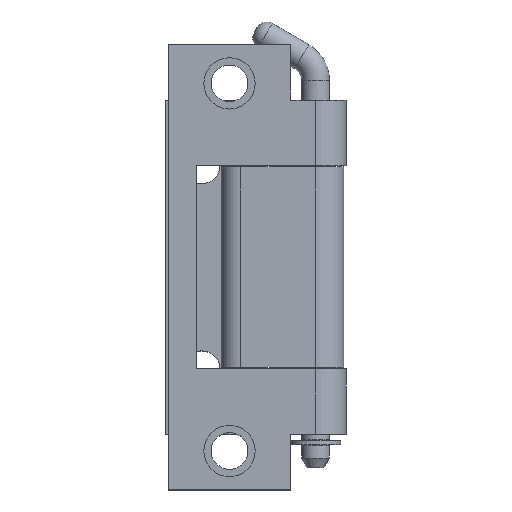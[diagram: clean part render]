
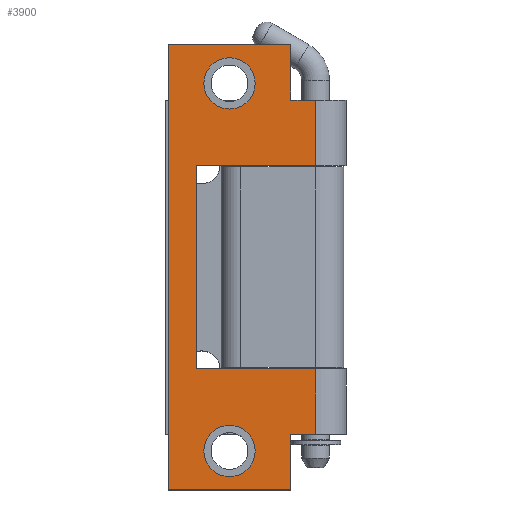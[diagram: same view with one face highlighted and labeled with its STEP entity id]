
A CAD part, top view. The second image highlights one B-rep face of the part: STEP entity #3900.
In plain terms, the highlighted planar face has unit normal (0, 0, 1).
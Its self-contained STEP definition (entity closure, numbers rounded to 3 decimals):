
#1731 = CARTESIAN_POINT ( 'NONE',  ( 80., 22., 3. ) ) ;
#2030 = CARTESIAN_POINT ( 'NONE',  ( 0., 0., 3. ) ) ;
#2063 = DIRECTION ( 'NONE',  ( 0., -1., 0. ) ) ;
#2064 = VECTOR ( 'NONE', #2063, 1000. ) ;
#2065 = CARTESIAN_POINT ( 'NONE',  ( 0., 26.45, 3. ) ) ;
#2070 = LINE ( 'NONE', #2065, #2064 ) ;
#2071 = CARTESIAN_POINT ( 'NONE',  ( 0., 22., 3. ) ) ;
#2124 = CARTESIAN_POINT ( 'NONE',  ( 70., 22., 3. ) ) ;
#2219 = CARTESIAN_POINT ( 'NONE',  ( 10., 22., 3. ) ) ;
#2228 = CARTESIAN_POINT ( 'NONE',  ( 80., 0., 3. ) ) ;
#2255 = DIRECTION ( 'NONE',  ( -1., 0., 0. ) ) ;
#2256 = DIRECTION ( 'NONE',  ( 0., 0., 1. ) ) ;
#2257 = AXIS2_PLACEMENT_3D ( 'NONE', #2270, #2256, #2255 ) ;
#2262 = CIRCLE ( 'NONE', #2257, 4.6 ) ;
#2270 = CARTESIAN_POINT ( 'NONE',  ( 7., 11., 3. ) ) ;
#2303 = DIRECTION ( 'NONE',  ( -1., 0., 0. ) ) ;
#2304 = VECTOR ( 'NONE', #2303, 1000. ) ;
#2305 = CARTESIAN_POINT ( 'NONE',  ( 10., 22., 3. ) ) ;
#2306 = LINE ( 'NONE', #2305, #2304 ) ;
#2307 = DIRECTION ( 'NONE',  ( 0., 1., 0. ) ) ;
#2308 = VECTOR ( 'NONE', #2307, 1000. ) ;
#2309 = CARTESIAN_POINT ( 'NONE',  ( 80., 0., 3. ) ) ;
#2310 = DIRECTION ( 'NONE',  ( 1., 0., 0. ) ) ;
#2311 = DIRECTION ( 'NONE',  ( 0., 0., 1. ) ) ;
#2312 = CARTESIAN_POINT ( 'NONE',  ( 0., 0., 3. ) ) ;
#2313 = LINE ( 'NONE', #2360, #2359 ) ;
#2314 = CARTESIAN_POINT ( 'NONE',  ( 58.25, 5., 3. ) ) ;
#2315 = CARTESIAN_POINT ( 'NONE',  ( 21.75, 26.45, 3. ) ) ;
#2318 = AXIS2_PLACEMENT_3D ( 'NONE', #2312, #2311, #2310 ) ;
#2319 = PLANE ( 'NONE',  #2318 ) ;
#2320 = FACE_BOUND ( 'NONE', #3902, .T. ) ;
#2324 = FACE_OUTER_BOUND ( 'NONE', #3889, .T. ) ;
#2325 = FACE_BOUND ( 'NONE', #3859, .T. ) ;
#2326 = LINE ( 'NONE', #2309, #2308 ) ;
#2330 = CARTESIAN_POINT ( 'NONE',  ( 58.25, 26.45, 3. ) ) ;
#2333 = LINE ( 'NONE', #2393, #2392 ) ;
#2334 = VECTOR ( 'NONE', #2385, 1000. ) ;
#2335 = DIRECTION ( 'NONE',  ( 1., 0., 0. ) ) ;
#2336 = DIRECTION ( 'NONE',  ( 0., 0., 1. ) ) ;
#2337 = CIRCLE ( 'NONE', #2341, 4.6 ) ;
#2339 = DIRECTION ( 'NONE',  ( 0., -1., 0. ) ) ;
#2340 = VECTOR ( 'NONE', #2339, 1000. ) ;
#2341 = AXIS2_PLACEMENT_3D ( 'NONE', #2348, #2336, #2335 ) ;
#2342 = CARTESIAN_POINT ( 'NONE',  ( 58.25, 65., 3. ) ) ;
#2343 = LINE ( 'NONE', #2342, #2340 ) ;
#2344 = CARTESIAN_POINT ( 'NONE',  ( 80., 26.45, 3. ) ) ;
#2345 = LINE ( 'NONE', #2344, #2334 ) ;
#2346 = DIRECTION ( 'NONE',  ( -1., 0., 0. ) ) ;
#2347 = VECTOR ( 'NONE', #2346, 1000. ) ;
#2348 = CARTESIAN_POINT ( 'NONE',  ( 73., 11., 3. ) ) ;
#2349 = CARTESIAN_POINT ( 'NONE',  ( 21.75, 5., 3. ) ) ;
#2353 = CARTESIAN_POINT ( 'NONE',  ( 10., 26.45, 3. ) ) ;
#2356 = CARTESIAN_POINT ( 'NONE',  ( 58.25, 5., 3. ) ) ;
#2357 = LINE ( 'NONE', #2356, #2347 ) ;
#2358 = DIRECTION ( 'NONE',  ( 0., 1., 0. ) ) ;
#2359 = VECTOR ( 'NONE', #2358, 1000. ) ;
#2360 = CARTESIAN_POINT ( 'NONE',  ( 21.75, 65., 3. ) ) ;
#2362 = CARTESIAN_POINT ( 'NONE',  ( 70., 26.45, 3. ) ) ;
#2365 = DIRECTION ( 'NONE',  ( 0., 1., 0. ) ) ;
#2366 = VECTOR ( 'NONE', #2365, 1000. ) ;
#2367 = CARTESIAN_POINT ( 'NONE',  ( 70., 69.712, 3. ) ) ;
#2368 = LINE ( 'NONE', #2367, #2366 ) ;
#2369 = DIRECTION ( 'NONE',  ( -1., 0., 0. ) ) ;
#2370 = VECTOR ( 'NONE', #2369, 1000. ) ;
#2371 = CARTESIAN_POINT ( 'NONE',  ( 80., 26.45, 3. ) ) ;
#2372 = LINE ( 'NONE', #2371, #2370 ) ;
#2385 = DIRECTION ( 'NONE',  ( -1., 0., 0. ) ) ;
#2387 = DIRECTION ( 'NONE',  ( 0., -1., 0. ) ) ;
#2388 = VECTOR ( 'NONE', #2387, 1000. ) ;
#2389 = CARTESIAN_POINT ( 'NONE',  ( 10., 69.712, 3. ) ) ;
#2390 = LINE ( 'NONE', #2389, #2388 ) ;
#2391 = DIRECTION ( 'NONE',  ( -1., 0., 0. ) ) ;
#2392 = VECTOR ( 'NONE', #2391, 1000. ) ;
#2393 = CARTESIAN_POINT ( 'NONE',  ( 70., 22., 3. ) ) ;
#2568 = DIRECTION ( 'NONE',  ( 1., 0., 0. ) ) ;
#2569 = VECTOR ( 'NONE', #2568, 1000. ) ;
#2570 = CARTESIAN_POINT ( 'NONE',  ( 0., 0., 3. ) ) ;
#2571 = LINE ( 'NONE', #2570, #2569 ) ;
#2735 = CARTESIAN_POINT ( 'NONE',  ( 2.4, 11., 3. ) ) ;
#2891 = CARTESIAN_POINT ( 'NONE',  ( 11.6, 11., 3. ) ) ;
#2963 = CIRCLE ( 'NONE', #3000, 4.6 ) ;
#2989 = DIRECTION ( 'NONE',  ( -1., 0., 0. ) ) ;
#2990 = DIRECTION ( 'NONE',  ( 0., 0., 1. ) ) ;
#2999 = CARTESIAN_POINT ( 'NONE',  ( 7., 11., 3. ) ) ;
#3000 = AXIS2_PLACEMENT_3D ( 'NONE', #2999, #2990, #2989 ) ;
#3022 = CARTESIAN_POINT ( 'NONE',  ( 77.6, 11., 3. ) ) ;
#3023 = CARTESIAN_POINT ( 'NONE',  ( 68.4, 11., 3. ) ) ;
#3024 = DIRECTION ( 'NONE',  ( 1., 0., 0. ) ) ;
#3025 = DIRECTION ( 'NONE',  ( 0., 0., 1. ) ) ;
#3032 = CARTESIAN_POINT ( 'NONE',  ( 73., 11., 3. ) ) ;
#3033 = CIRCLE ( 'NONE', #3038, 4.6 ) ;
#3038 = AXIS2_PLACEMENT_3D ( 'NONE', #3032, #3025, #3024 ) ;
#3673 = VERTEX_POINT ( 'NONE', #1731 ) ;
#3756 = VERTEX_POINT ( 'NONE', #2030 ) ;
#3763 = VERTEX_POINT ( 'NONE', #2071 ) ;
#3768 = EDGE_CURVE ( 'NONE', #3763, #3756, #2070, .T. ) ;
#3795 = ORIENTED_EDGE ( 'NONE', *, *, #4291, .F. ) ;
#3851 = VERTEX_POINT ( 'NONE', #2228 ) ;
#3859 = EDGE_LOOP ( 'NONE', ( #3896, #3795 ) ) ;
#3864 = VERTEX_POINT ( 'NONE', #2219 ) ;
#3865 = EDGE_CURVE ( 'NONE', #4256, #4158, #2262, .T. ) ;
#3888 = ORIENTED_EDGE ( 'NONE', *, *, #3927, .T. ) ;
#3889 = EDGE_LOOP ( 'NONE', ( #3910, #3909, #3898, #3888, #3923, #3916, #3921, #3919, #3941, #3926, #3917, #3934 ) ) ;
#3890 = ORIENTED_EDGE ( 'NONE', *, *, #4283, .F. ) ;
#3894 = VERTEX_POINT ( 'NONE', #2330 ) ;
#3895 = ORIENTED_EDGE ( 'NONE', *, *, #3865, .F. ) ;
#3896 = ORIENTED_EDGE ( 'NONE', *, *, #3918, .F. ) ;
#3898 = ORIENTED_EDGE ( 'NONE', *, *, #3905, .T. ) ;
#3900 = ADVANCED_FACE ( 'NONE', ( #2320, #2325, #2324 ), #2319, .T. ) ;
#3902 = EDGE_LOOP ( 'NONE', ( #3895, #3890 ) ) ;
#3903 = EDGE_CURVE ( 'NONE', #3851, #3673, #2326, .T. ) ;
#3904 = EDGE_CURVE ( 'NONE', #3864, #3763, #2306, .T. ) ;
#3905 = EDGE_CURVE ( 'NONE', #3913, #3908, #2313, .T. ) ;
#3906 = VERTEX_POINT ( 'NONE', #2362 ) ;
#3908 = VERTEX_POINT ( 'NONE', #2315 ) ;
#3909 = ORIENTED_EDGE ( 'NONE', *, *, #3911, .T. ) ;
#3910 = ORIENTED_EDGE ( 'NONE', *, *, #3915, .T. ) ;
#3911 = EDGE_CURVE ( 'NONE', #3912, #3913, #2357, .T. ) ;
#3912 = VERTEX_POINT ( 'NONE', #2314 ) ;
#3913 = VERTEX_POINT ( 'NONE', #2349 ) ;
#3914 = VERTEX_POINT ( 'NONE', #2353 ) ;
#3915 = EDGE_CURVE ( 'NONE', #3894, #3912, #2343, .T. ) ;
#3916 = ORIENTED_EDGE ( 'NONE', *, *, #3904, .T. ) ;
#3917 = ORIENTED_EDGE ( 'NONE', *, *, #3942, .T. ) ;
#3918 = EDGE_CURVE ( 'NONE', #4302, #4295, #2337, .T. ) ;
#3919 = ORIENTED_EDGE ( 'NONE', *, *, #4014, .T. ) ;
#3920 = EDGE_CURVE ( 'NONE', #3673, #3943, #2333, .T. ) ;
#3921 = ORIENTED_EDGE ( 'NONE', *, *, #3768, .T. ) ;
#3922 = EDGE_CURVE ( 'NONE', #3914, #3864, #2390, .T. ) ;
#3923 = ORIENTED_EDGE ( 'NONE', *, *, #3922, .T. ) ;
#3926 = ORIENTED_EDGE ( 'NONE', *, *, #3920, .T. ) ;
#3927 = EDGE_CURVE ( 'NONE', #3908, #3914, #2345, .T. ) ;
#3934 = ORIENTED_EDGE ( 'NONE', *, *, #3939, .T. ) ;
#3939 = EDGE_CURVE ( 'NONE', #3906, #3894, #2372, .T. ) ;
#3941 = ORIENTED_EDGE ( 'NONE', *, *, #3903, .T. ) ;
#3942 = EDGE_CURVE ( 'NONE', #3943, #3906, #2368, .T. ) ;
#3943 = VERTEX_POINT ( 'NONE', #2124 ) ;
#4014 = EDGE_CURVE ( 'NONE', #3756, #3851, #2571, .T. ) ;
#4158 = VERTEX_POINT ( 'NONE', #2735 ) ;
#4256 = VERTEX_POINT ( 'NONE', #2891 ) ;
#4283 = EDGE_CURVE ( 'NONE', #4158, #4256, #2963, .T. ) ;
#4291 = EDGE_CURVE ( 'NONE', #4295, #4302, #3033, .T. ) ;
#4295 = VERTEX_POINT ( 'NONE', #3023 ) ;
#4302 = VERTEX_POINT ( 'NONE', #3022 ) ;
